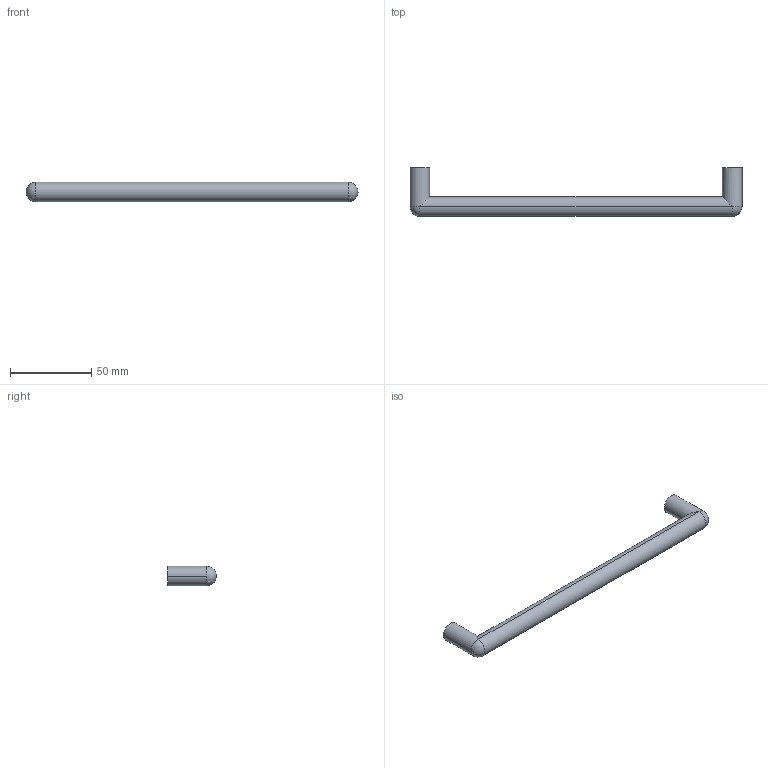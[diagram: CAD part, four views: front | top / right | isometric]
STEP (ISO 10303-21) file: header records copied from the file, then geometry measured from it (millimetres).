
FILE_DESCRIPTION( ( '' ), '1' );
FILE_NAME( 'D:/1.AUTOCAD EXPORT/Group 10/sheet_10_1/ 9070992.stp', '2013-10-17T08:21:10', ( '' ), ( '' ), ' ', ' ', ' ' );
FILE_SCHEMA( ( 'automotive_design' ) );
Length unit declared in the file: millimetre
Products named in the file (1): 1
Bounding box: 204 x 30 x 12 mm (x, y, z)
Volume: 26627.1 mm3; surface area: 9526.3 mm2
Topology: 1 solids, 1 shells, 16 faces, 36 edges, 20 vertices
Faces by surface type: cylinder 10, plane 4, sphere 2
Entity records: 838 total; most frequent: DIRECTION 88, STYLED_ITEM 69, PRESENTATION_STYLE_ASSIGNMENT 69, CARTESIAN_POINT 69, COLOUR_RGB 69, ORIENTED_EDGE 64, AXIS2_PLACEMENT_3D 39, EDGE_CURVE 32
